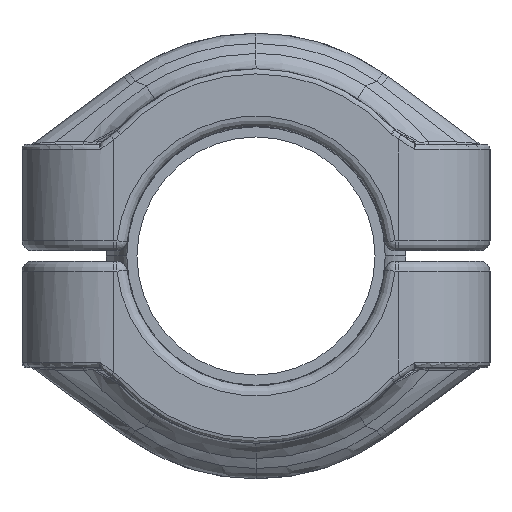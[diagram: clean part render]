
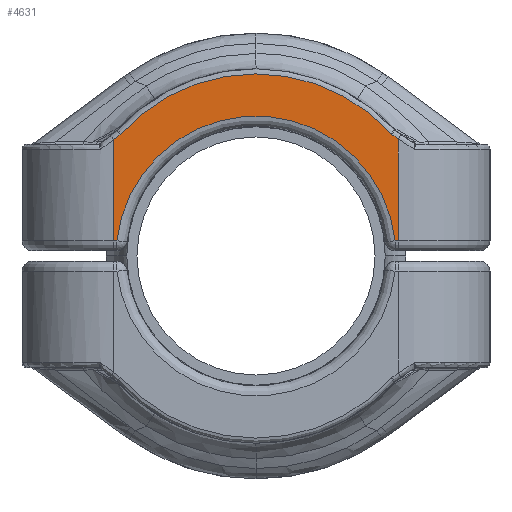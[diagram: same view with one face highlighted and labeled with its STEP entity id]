
A CAD part, left-side view. The second image highlights one B-rep face of the part: STEP entity #4631.
In plain terms, the highlighted planar face has unit normal (-1, 0, 0) as drawn and (1, 0, 0) by its records, which use the part's own axes.
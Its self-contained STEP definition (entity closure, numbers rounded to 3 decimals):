
#1271=CARTESIAN_POINT('',(29.5,14.,11.511));
#1295=DIRECTION('',(0.,1.,0.));
#1296=VECTOR('',#1295,0.332);
#1297=CARTESIAN_POINT('',(29.5,-14.,1.5));
#1298=LINE('',#1297,#1296);
#1302=DIRECTION('',(0.,0.,1.));
#1303=VECTOR('',#1302,9.932);
#1304=CARTESIAN_POINT('',(29.5,-14.,1.5));
#1305=LINE('',#1304,#1303);
#1309=DIRECTION('',(0.,0.789,0.614));
#1310=VECTOR('',#1309,0.808);
#1311=CARTESIAN_POINT('',(29.5,-14.,11.432));
#1312=LINE('',#1311,#1310);
#1316=CARTESIAN_POINT('',(29.5,-13.854,12.56));
#1317=DIRECTION('',(1.,0.,0.));
#1318=DIRECTION('',(0.,0.614,-0.789));
#1319=AXIS2_PLACEMENT_3D('',#1316,#1317,#1318);
#1324=CARTESIAN_POINT('',(29.5,0.,0.));
#1325=DIRECTION('',(-1.,0.,0.));
#1326=DIRECTION('',(0.,-0.741,0.672));
#1327=AXIS2_PLACEMENT_3D('',#1324,#1325,#1326);
#1332=CARTESIAN_POINT('',(29.5,13.797,12.623));
#1333=DIRECTION('',(1.,0.,0.));
#1334=DIRECTION('',(0.,-0.738,-0.675));
#1335=AXIS2_PLACEMENT_3D('',#1332,#1333,#1334);
#1340=DIRECTION('',(0.,0.823,-0.568));
#1341=VECTOR('',#1340,0.799);
#1342=CARTESIAN_POINT('',(29.5,13.343,11.964));
#1343=LINE('',#1342,#1341);
#1347=DIRECTION('',(0.,0.,-1.));
#1348=VECTOR('',#1347,10.011);
#1349=CARTESIAN_POINT('',(29.5,14.,11.511));
#1350=LINE('',#1349,#1348);
#1354=DIRECTION('',(0.,1.,0.));
#1355=VECTOR('',#1354,0.332);
#1356=CARTESIAN_POINT('',(29.5,13.668,1.5));
#1357=LINE('',#1356,#1355);
#1361=CARTESIAN_POINT('',(29.5,0.,0.));
#1362=DIRECTION('',(-1.,0.,0.));
#1363=DIRECTION('',(0.,-0.994,0.109));
#1364=AXIS2_PLACEMENT_3D('',#1361,#1362,#1363);
#4110=VERTEX_POINT('',#1271);
#4123=CARTESIAN_POINT('',(29.5,13.206,12.083));
#4124=CARTESIAN_POINT('',(29.5,13.343,11.964));
#4125=VERTEX_POINT('',#4123);
#4126=VERTEX_POINT('',#4124);
#4127=CARTESIAN_POINT('',(29.5,-14.,11.432));
#4128=CARTESIAN_POINT('',(29.5,-13.363,11.929));
#4129=VERTEX_POINT('',#4127);
#4130=VERTEX_POINT('',#4128);
#4131=CARTESIAN_POINT('',(29.5,-13.262,12.023));
#4132=VERTEX_POINT('',#4131);
#4232=CARTESIAN_POINT('',(29.5,-14.,1.5));
#4233=VERTEX_POINT('',#4232);
#4236=CARTESIAN_POINT('',(29.5,-13.668,1.5));
#4237=VERTEX_POINT('',#4236);
#4242=CARTESIAN_POINT('',(29.5,13.668,1.5));
#4243=VERTEX_POINT('',#4242);
#4248=CARTESIAN_POINT('',(29.5,14.,1.5));
#4249=VERTEX_POINT('',#4248);
#4606=CARTESIAN_POINT('',(29.5,-12.9,0.));
#4607=DIRECTION('',(-1.,0.,0.));
#4608=DIRECTION('',(0.,0.,1.));
#4609=AXIS2_PLACEMENT_3D('',#4606,#4607,#4608);
#4610=PLANE('',#4609);
#4612=ORIENTED_EDGE('',*,*,#4611,.F.);
#4614=ORIENTED_EDGE('',*,*,#4613,.T.);
#4616=ORIENTED_EDGE('',*,*,#4615,.T.);
#4618=ORIENTED_EDGE('',*,*,#4617,.T.);
#4620=ORIENTED_EDGE('',*,*,#4619,.T.);
#4622=ORIENTED_EDGE('',*,*,#4621,.T.);
#4624=ORIENTED_EDGE('',*,*,#4623,.T.);
#4625=ORIENTED_EDGE('',*,*,#4569,.T.);
#4626=ORIENTED_EDGE('',*,*,#4597,.F.);
#4628=ORIENTED_EDGE('',*,*,#4627,.F.);
#4629=EDGE_LOOP('',(#4612,#4614,#4616,#4618,#4620,#4622,#4624,#4625,#4626,
#4628));
#4630=FACE_OUTER_BOUND('',#4629,.F.);
#1320=CIRCLE('',#1319,0.8);
#1328=CIRCLE('',#1327,17.9);
#1336=CIRCLE('',#1335,0.8);
#1365=CIRCLE('',#1364,13.75);
#4569=EDGE_CURVE('',#4110,#4249,#1350,.T.);
#4597=EDGE_CURVE('',#4243,#4249,#1357,.T.);
#4611=EDGE_CURVE('',#4233,#4237,#1298,.T.);
#4613=EDGE_CURVE('',#4233,#4129,#1305,.T.);
#4615=EDGE_CURVE('',#4129,#4130,#1312,.T.);
#4617=EDGE_CURVE('',#4130,#4132,#1320,.T.);
#4619=EDGE_CURVE('',#4132,#4125,#1328,.T.);
#4621=EDGE_CURVE('',#4125,#4126,#1336,.T.);
#4623=EDGE_CURVE('',#4126,#4110,#1343,.T.);
#4627=EDGE_CURVE('',#4237,#4243,#1365,.T.);
#4631=ADVANCED_FACE('',(#4630),#4610,.F.);
